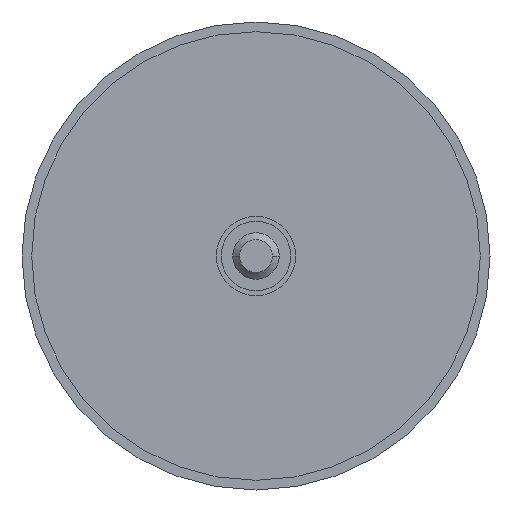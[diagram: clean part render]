
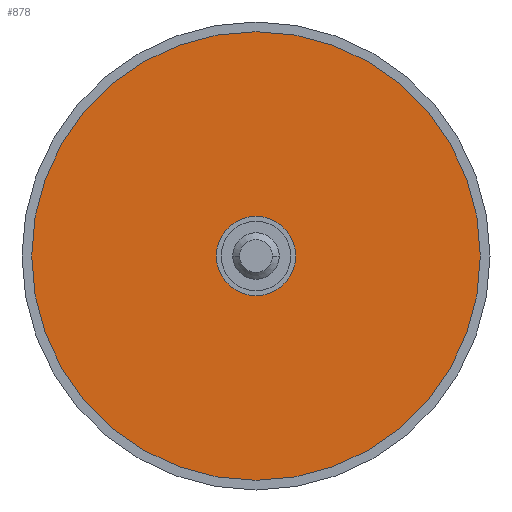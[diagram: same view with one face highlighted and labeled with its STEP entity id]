
A CAD part, front view. The second image highlights one B-rep face of the part: STEP entity #878.
In plain terms, the highlighted planar face has unit normal (0, -1, 0).
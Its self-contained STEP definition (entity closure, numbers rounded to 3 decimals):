
#263=CARTESIAN_POINT('',(0.,15.996,0.));
#264=DIRECTION('',(0.,1.,0.));
#265=DIRECTION('',(1.,0.,0.));
#266=AXIS2_PLACEMENT_3D('',#263,#264,#265);
#271=CARTESIAN_POINT('',(0.,15.996,0.));
#272=DIRECTION('',(0.,-1.,0.));
#273=DIRECTION('',(1.,0.,0.));
#274=AXIS2_PLACEMENT_3D('',#271,#272,#273);
#286=CARTESIAN_POINT('',(0.,15.996,0.));
#287=DIRECTION('',(0.,-1.,0.));
#288=DIRECTION('',(1.,0.,0.));
#289=AXIS2_PLACEMENT_3D('',#286,#287,#288);
#301=CARTESIAN_POINT('',(0.,15.996,0.));
#302=DIRECTION('',(0.,1.,0.));
#303=DIRECTION('',(1.,0.,0.));
#304=AXIS2_PLACEMENT_3D('',#301,#302,#303);
#609=CARTESIAN_POINT('',(58.05,15.996,0.));
#611=VERTEX_POINT('',#609);
#628=CARTESIAN_POINT('',(6.,15.996,0.));
#630=VERTEX_POINT('',#628);
#631=CARTESIAN_POINT('',(-58.05,15.996,0.));
#633=VERTEX_POINT('',#631);
#650=CARTESIAN_POINT('',(-6.,15.996,0.));
#652=VERTEX_POINT('',#650);
#863=CARTESIAN_POINT('',(0.,15.996,0.));
#864=DIRECTION('',(0.,1.,0.));
#865=DIRECTION('',(1.,0.,0.));
#866=AXIS2_PLACEMENT_3D('',#863,#864,#865);
#867=PLANE('',#866);
#869=ORIENTED_EDGE('',*,*,#868,.F.);
#871=ORIENTED_EDGE('',*,*,#870,.T.);
#872=EDGE_LOOP('',(#869,#871));
#873=FACE_OUTER_BOUND('',#872,.F.);
#874=ORIENTED_EDGE('',*,*,#856,.F.);
#875=ORIENTED_EDGE('',*,*,#845,.T.);
#876=EDGE_LOOP('',(#874,#875));
#877=FACE_BOUND('',#876,.F.);
#267=CIRCLE('',#266,6.);
#275=CIRCLE('',#274,6.);
#290=CIRCLE('',#289,58.05);
#305=CIRCLE('',#304,58.05);
#845=EDGE_CURVE('',#630,#652,#275,.T.);
#856=EDGE_CURVE('',#630,#652,#267,.T.);
#868=EDGE_CURVE('',#611,#633,#290,.T.);
#870=EDGE_CURVE('',#611,#633,#305,.T.);
#878=ADVANCED_FACE('',(#873,#877),#867,.F.);
